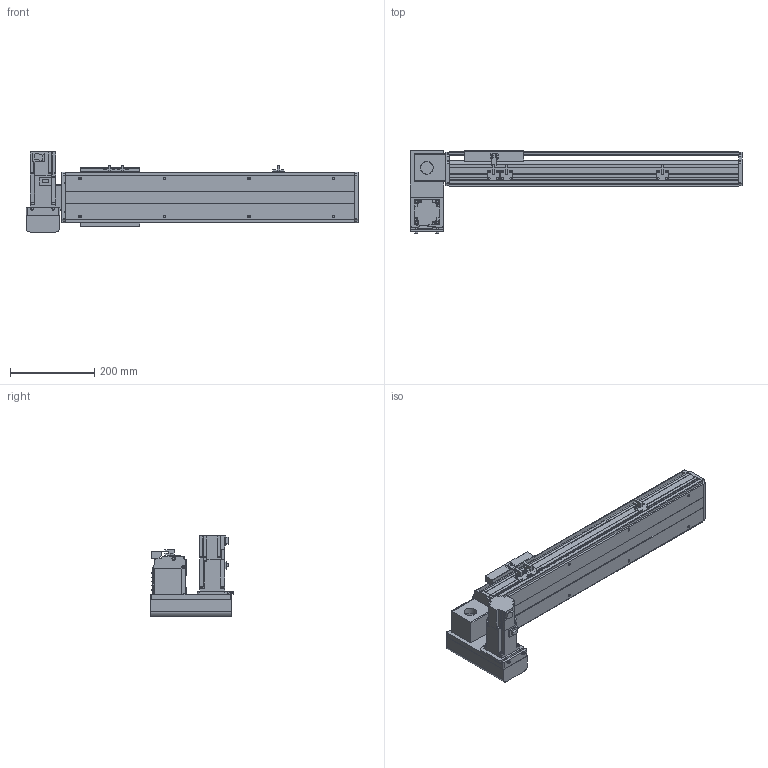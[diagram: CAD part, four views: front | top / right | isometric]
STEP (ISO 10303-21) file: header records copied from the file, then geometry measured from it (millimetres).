
FILE_DESCRIPTION(/* description */ ('STEP AP214'),/* implementation_level */ '2;1');
FILE_NAME(/* name */ 'PBS120-P40-S400-LD-T40-C1-N(0)',/* time_stamp */ '2022-06-06T02:15:42+02:00',/* author */ ('License CC BY-ND 4.0'),/* organization */ ('CADENAS'),/* preprocessor_version */ 'ST-DEVELOPER v18.102',/* originating_system */ 'PARTsolutions',/* authorisation */ ' ');
FILE_SCHEMA (('AUTOMOTIVE_DESIGN {1 0 10303 214 3 1 1}'));
Length unit declared in the file: millimetre
Products named in the file (7): PBS120-P40-S400-LD-T40-C1-N(0); PBS120_sensor; PBS120_plant; PBS120_sliser; T40-p1; PBS120T-LD_motors; PBS120-S400()_body
Assembly tree (8 placements, depth 2):
  PBS120-P40-S400-LD-T40-C1-N(0)
    PBS120_sensor  x3
    PBS120_plant
    PBS120_sliser
    T40-p1
    PBS120T-LD_motors
    PBS120-S400()_body
Bounding box: 786 x 196 x 189.7 mm (x, y, z)
Volume: 4008430.8 mm3; surface area: 732757.3 mm2
Topology: 8 solids, 8 shells, 804 faces, 2116 edges, 1363 vertices
Faces by surface type: plane 541, cylinder 221, cone 40, torus 2
Full cylindrical faces by diameter (mm): 2.459 x6, 3.242 x4, 4 x2, 4.134 x4, 4.5 x10, 4.917 x12, 5.5 x11, 6 x2, 6.6 x1, 7 x2, 8.5 x4, 9 x4, 12 x1, 14 x1, 30 x2, 40 x1, 50 x2
Entity records: 21114 total; most frequent: DIRECTION 3644, CARTESIAN_POINT 3605, ORIENTED_EDGE 3454, EDGE_CURVE 1727, LINE 1228, VECTOR 1228, AXIS2_PLACEMENT_3D 1208, VERTEX_POINT 1169
